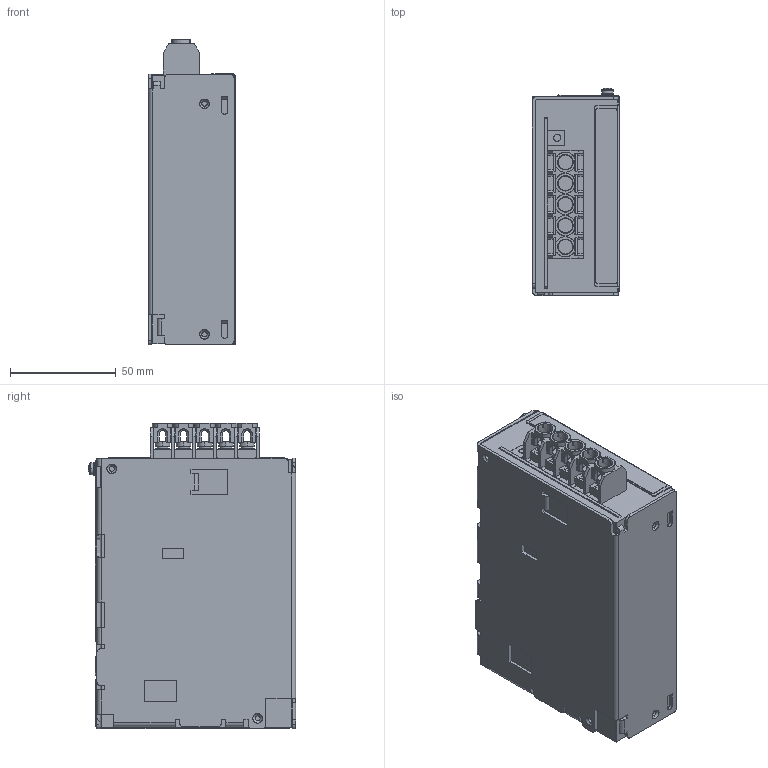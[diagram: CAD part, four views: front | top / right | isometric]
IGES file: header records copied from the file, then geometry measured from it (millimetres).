
Start section: SolidWorks IGES file using analytic representation for surfaces
Global section: file name: C:\Users\46000747\Desktop\rws150b_outline.IGS; native system: SolidWorks 2013; preprocessor: SolidWorks 2013; author: a489167; date: 140724.180334; units: millimetre
Bounding box: 41.2 x 98.05 x 144.6 mm (x, y, z)
Surface area: 51478.1 mm2 (no closed solid volume)
Topology: 0 solids, 0 shells, 1303 faces, 12647 edges, 12623 vertices
Faces by surface type: bspline 924, revolution 379
